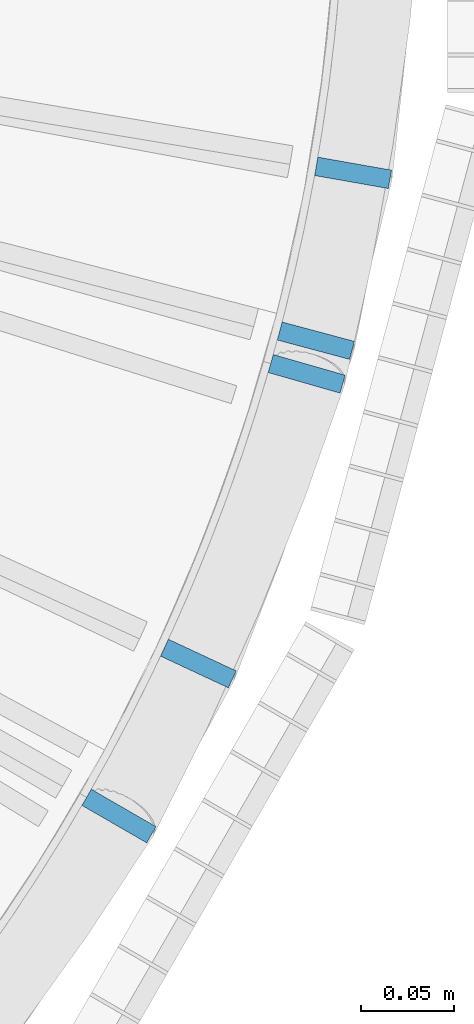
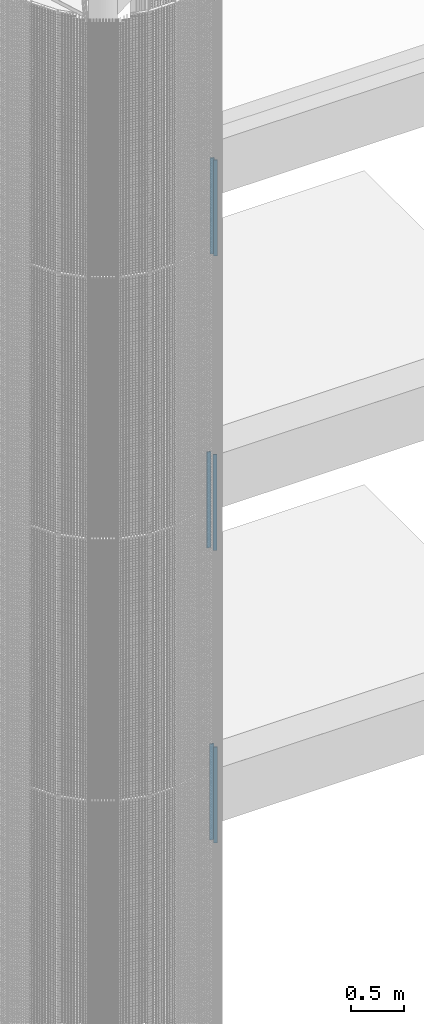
# One storey, part 66 of 1183: 6 columns, 6 elements without a shape of their own.
"""IFC2X3 building model written with IfcOpenShell, lengths in millimetres."""

from ifc_helpers import new_model, si_unit, frame, origin_with_axes, origin_2d_with_axis, place, context, subcontext, project, spatial, rectangle, extrude, material, type_object, element, aggregate, save


model = new_model("IFC2X3")

# Units and contexts
model_context = context("Model", 3, precision=1e-05, world=origin_with_axes())
body_context = subcontext(model_context, "Body", "Model", "MODEL_VIEW")
ifc_project = project(units=[si_unit("LENGTHUNIT", "METRE", prefix="MILLI"), si_unit("AREAUNIT", "SQUARE_METRE"), si_unit("VOLUMEUNIT", "CUBIC_METRE"), si_unit("MASSUNIT", "GRAM", prefix="KILO"), si_unit("TIMEUNIT", "SECOND"), si_unit("PLANEANGLEUNIT", "RADIAN"), si_unit("SOLIDANGLEUNIT", "STERADIAN"), si_unit("THERMODYNAMICTEMPERATUREUNIT", "DEGREE_CELSIUS"), si_unit("LUMINOUSINTENSITYUNIT", "LUMEN")], contexts=[model_context])

# Site, building, storey
site_placement = place(None, origin_with_axes())
site = spatial("IfcSite", under=ifc_project, at=site_placement, Name="Undefined", CompositionType="ELEMENT")
building_placement = place(site_placement, origin_with_axes())
building = spatial("IfcBuilding", under=site, at=building_placement, Name="Undefined", CompositionType="ELEMENT")
storey_placement = place(building_placement, origin_with_axes())
storey = spatial("IfcBuildingStorey", under=building, at=storey_placement, Name="Undefined", CompositionType="ELEMENT", Elevation=0.0)

# Assembly, column
assembly_1_placement = place(storey_placement, origin_with_axes())
assembly_1 = element("IfcElementAssembly", 1, at=assembly_1_placement, inside=storey, Name="MONTANT", AssemblyPlace="NOTDEFINED", PredefinedType="NOTDEFINED")
ifc_material = material(Name="STEEL/S235JR")
column_type = type_object("IfcColumnType", Name="PL10*40", PredefinedType="NOTDEFINED")
column_1_placement = place(assembly_1_placement, frame((22512.7907755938, -527.00000000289, 14472.6), z_axis=(0.0, 0.0, 1.0), x_axis=(-0.866025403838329, 0.499999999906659, 0.0)))
column_1 = element("IfcColumn", 2, at=column_1_placement, type_object=column_type, material=ifc_material, Name="MONTANT", context=body_context, shape_type="SweptSolid", body=[
    extrude(rectangle(XDim=10.0, YDim=40.0, at=origin_2d_with_axis()), frame((0.0, 0.0, 1100.0), z_axis=(0.0, 0.0, -1.0), x_axis=(0.0, 1.0, 0.0)), (0.0, 0.0, 1.0), 1100.0),
])
aggregate(assembly_1, [column_1])

assembly_2_placement = place(storey_placement, origin_with_axes())
assembly_2 = element("IfcElementAssembly", 3, at=assembly_2_placement, inside=storey, Name="MONTANT", AssemblyPlace="NOTDEFINED", PredefinedType="NOTDEFINED")
column_2_placement = place(assembly_2_placement, frame((22613.169827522, -290.521773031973, 14316.08), z_axis=(0.0, 0.0, 1.0), x_axis=(-0.961261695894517, 0.275637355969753, 0.0)))
column_2 = element("IfcColumn", 4, at=column_2_placement, type_object=column_type, material=ifc_material, Name="MONTANT", context=body_context, shape_type="SweptSolid", body=[
    extrude(rectangle(XDim=10.0, YDim=40.0, at=origin_2d_with_axis()), frame((0.0, 0.0, 1100.0), z_axis=(0.0, 0.0, -1.0), x_axis=(0.0, 1.0, 0.0)), (0.0, 0.0, 1.0), 1100.0),
])
aggregate(assembly_2, [column_2])

assembly_3_placement = place(storey_placement, origin_with_axes())
assembly_3 = element("IfcElementAssembly", 5, at=assembly_3_placement, inside=storey, Name="MONTANT", AssemblyPlace="NOTDEFINED", PredefinedType="NOTDEFINED")
column_3_placement = place(assembly_3_placement, frame((22637.9873716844, -183.025179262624, 10872.6), z_axis=(0.0, 0.0, 1.0), x_axis=(-0.984807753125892, 0.173648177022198, 0.0)))
column_3 = element("IfcColumn", 6, at=column_3_placement, type_object=column_type, material=ifc_material, Name="MONTANT", context=body_context, shape_type="SweptSolid", body=[
    extrude(rectangle(XDim=10.0, YDim=40.0, at=origin_2d_with_axis()), frame((0.0, 0.0, 1100.0), z_axis=(0.0, 0.0, -1.0), x_axis=(0.0, 1.0, 0.0)), (0.0, 0.0, 1.0), 1100.0),
])
aggregate(assembly_3, [column_3])

assembly_4_placement = place(storey_placement, origin_with_axes())
assembly_4 = element("IfcElementAssembly", 7, at=assembly_4_placement, inside=storey, Name="MONTANT", AssemblyPlace="NOTDEFINED", PredefinedType="NOTDEFINED")
column_4_placement = place(assembly_4_placement, frame((22555.2484075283, -445.439647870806, 11029.12), z_axis=(0.0, 0.0, 1.0), x_axis=(-0.906307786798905, 0.422618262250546, 1.9012441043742e-10)))
column_4 = element("IfcColumn", 8, at=column_4_placement, type_object=column_type, material=ifc_material, Name="MONTANT", context=body_context, shape_type="SweptSolid", body=[
    extrude(rectangle(XDim=10.0, YDim=40.0, at=origin_2d_with_axis()), frame((0.0, 0.0, 1100.0), z_axis=(0.0, 0.0, -1.0), x_axis=(0.0, 1.0, 0.0)), (0.0, 0.0, 1.0), 1100.0),
])
aggregate(assembly_4, [column_4])

assembly_5_placement = place(storey_placement, origin_with_axes())
assembly_5 = element("IfcElementAssembly", 9, at=assembly_5_placement, inside=storey, Name="MONTANT", AssemblyPlace="NOTDEFINED", PredefinedType="NOTDEFINED")
column_5_placement = place(assembly_5_placement, frame((22512.7907755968, -527.000000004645, 7742.16), z_axis=(0.0, 0.0, 1.0), x_axis=(-0.866025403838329, 0.499999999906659, 0.0)))
column_5 = element("IfcColumn", 10, at=column_5_placement, type_object=column_type, material=ifc_material, Name="MONTANT", context=body_context, shape_type="SweptSolid", body=[
    extrude(rectangle(XDim=10.0, YDim=40.0, at=origin_2d_with_axis()), frame((0.0, 0.0, 1100.0), z_axis=(0.0, 0.0, -1.0), x_axis=(0.0, 1.0, 0.0)), (0.0, 0.0, 1.0), 1100.0),
])
aggregate(assembly_5, [column_5])

assembly_6_placement = place(storey_placement, origin_with_axes())
assembly_6 = element("IfcElementAssembly", 11, at=assembly_6_placement, inside=storey, Name="MONTANT", AssemblyPlace="NOTDEFINED", PredefinedType="NOTDEFINED")
column_6_placement = place(assembly_6_placement, frame((22618.0858209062, -272.795273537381, 7585.64), z_axis=(0.0, 0.0, 1.0), x_axis=(-0.965925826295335, 0.258819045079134, 0.0)))
column_6 = element("IfcColumn", 12, at=column_6_placement, type_object=column_type, material=ifc_material, Name="MONTANT", context=body_context, shape_type="SweptSolid", body=[
    extrude(rectangle(XDim=10.0, YDim=40.0, at=origin_2d_with_axis()), frame((0.0, 0.0, 1100.0), z_axis=(0.0, 0.0, -1.0), x_axis=(0.0, 1.0, 0.0)), (0.0, 0.0, 1.0), 1100.0),
])
aggregate(assembly_6, [column_6])

save(model, "model.ifc")
